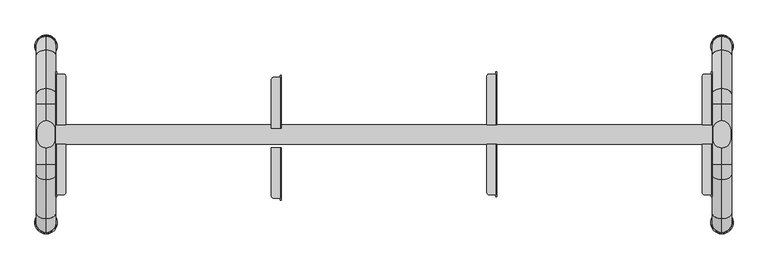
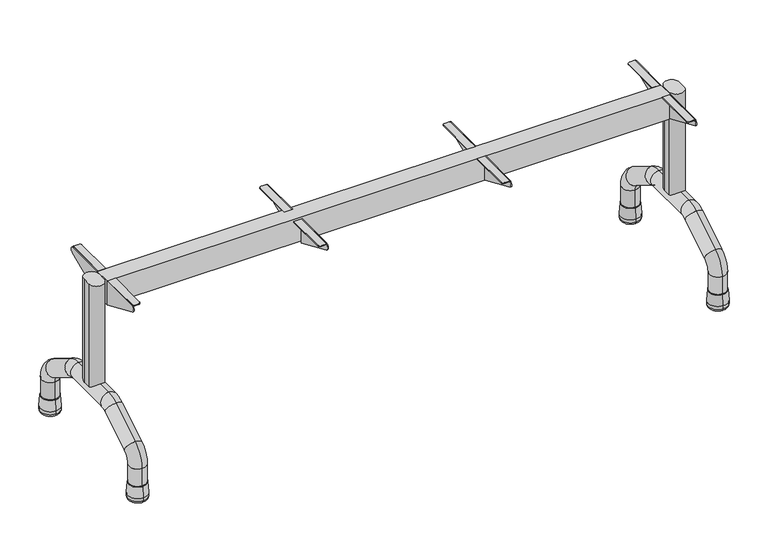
"""IFC4 building model written with IfcOpenShell, lengths in millimetres: furniture geometry, Banco para refeitório : Banco para refeitório 150x30cm cód 40470.6."""

from ifc_helpers import new_model, si_unit, point, frame, frame_2d, origin, place, context, project, spatial, polyline, circle_curve, ellipse_curve, trimmed, segment, composite_curve, outline, extrude, source, transform, mapped, element, save
from ifc_brep_helpers import plane_surface, cylinder_surface, revolved_surface, advanced_brep


def furniture_5cd1a622(model_context):
    return source(origin(), model_context, "Body", "SolidModel", [
        extrude(outline(composite_curve([segment(trimmed(circle_curve(frame_2d((-690.0, -9.5)), 18.0), [point((-672.0, -9.5))], [point((-708.0, -9.5))], False, "CARTESIAN"), True, "CONTINUOUS"), segment(polyline([(-708.0, -9.5), (-708.0, 9.5)]), True, "CONTINUOUS"), segment(trimmed(circle_curve(frame_2d((-690.0, 9.5)), 18.0), [point((-708.0, 9.5))], [point((-672.0, 9.5))], False, "CARTESIAN"), True, "CONTINUOUS"), segment(polyline([(-672.0, 9.5), (-672.0, -9.5)]), True, "CONTINUOUS")], self_intersect=False)), frame((0.0, 0.0, 175.0), z_axis=(0.0, 0.0, 1.0), x_axis=(1.0, 0.0, 0.0)), (0.0, 0.0, 1.0), 267.0),
        advanced_brep(
        [(-690.0, -160.0, 43.1183008), (-690.0, -200.0, 43.1183008), (-690.0, -160.0, 86.179057), (-690.0, -200.0, 86.179057), (-690.0, -171.6393713, 137.1589568), (-690.0, -150.5464571, 103.1723569), (-690.0, -71.882227, 151.9932999), (-690.0, -92.9751412, 185.9798998), (-690.0, -61.3357699, 195.0), (-690.0, -61.3357699, 155.0), (-690.0, 61.3357699, 155.0), (-690.0, 61.3357699, 195.0), (-690.0, 160.0, 43.1183008), (-690.0, 200.0, 43.1183008), (-690.0, 92.9751412, 185.9798998), (-690.0, 71.882227, 151.9932999), (-690.0, 150.5464571, 103.1723569), (-690.0, 171.6393713, 137.1589568), (-690.0, 200.0, 86.179057), (-690.0, 160.0, 86.179057)],
        [
            (0, 1, circle_curve(frame((-690.0, -180.0, 43.1183008), z_axis=(0.0, 0.0, -1.0), x_axis=(0.0, -1.0, 0.0)), 20.0)),
            (1, 0, circle_curve(frame((-690.0, -180.0, 43.1183008), z_axis=(0.0, 0.0, -1.0), x_axis=(0.0, -1.0, 0.0)), 20.0)),
            (0, 2),
            (2, 3, circle_curve(frame((-690.0, -180.0, 86.179057), z_axis=(0.0, 0.0, -1.0), x_axis=(0.0, -1.0, 0.0)), 20.0)),
            (3, 1),
            (3, 2, circle_curve(frame((-690.0, -180.0, 86.179057), z_axis=(0.0, 0.0, -1.0), x_axis=(0.0, -1.0, 0.0)), 20.0)),
            (4, 5, circle_curve(frame((-690.0, -161.0929142, 120.1656569), z_axis=(0.0, 0.8496649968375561, 0.5273228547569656), x_axis=(0.0, -0.5273228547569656, 0.8496649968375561)), 20.0)),
            (5, 6),
            (6, 7, circle_curve(frame((-690.0, -82.4286841, 168.9865999), z_axis=(0.0, -0.8496649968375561, -0.5273228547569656), x_axis=(0.0, -0.5273228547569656, 0.8496649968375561)), 20.0)),
            (7, 4),
            (5, 4, circle_curve(frame((-690.0, -161.0929142, 120.1656569), z_axis=(0.0, 0.8496649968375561, 0.5273228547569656), x_axis=(0.0, -0.5273228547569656, 0.8496649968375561)), 20.0)),
            (7, 6, circle_curve(frame((-690.0, -82.4286841, 168.9865999), z_axis=(0.0, -0.8496649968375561, -0.5273228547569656), x_axis=(0.0, -0.5273228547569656, 0.8496649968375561)), 20.0)),
            (8, 9, circle_curve(frame((-690.0, -61.3357699, 175.0), z_axis=(0.0, 1.0, 0.0), x_axis=(0.0, 0.0, 1.0)), 20.0)),
            (9, 10),
            (10, 11, circle_curve(frame((-690.0, 61.3357699, 175.0), z_axis=(0.0, -1.0, 0.0), x_axis=(0.0, 0.0, 1.0)), 20.0)),
            (11, 8),
            (9, 8, circle_curve(frame((-690.0, -61.3357699, 175.0), z_axis=(0.0, 1.0, 0.0), x_axis=(0.0, 0.0, 1.0)), 20.0)),
            (11, 10, circle_curve(frame((-690.0, 61.3357699, 175.0), z_axis=(0.0, -1.0, 0.0), x_axis=(0.0, 0.0, 1.0)), 20.0)),
            (12, 13, circle_curve(frame((-690.0, 180.0, 43.1183008), z_axis=(0.0, 0.0, -1.0), x_axis=(0.0, 1.0, 0.0)), 20.0)),
            (13, 12, circle_curve(frame((-690.0, 180.0, 43.1183008), z_axis=(0.0, 0.0, -1.0), x_axis=(0.0, 1.0, 0.0)), 20.0)),
            (4, 3, circle_curve(frame((-690.0, -140.0, 86.179057), z_axis=(1.0, 0.0, 0.0), x_axis=(0.0, -1.0, 0.0)), 60.0)),
            (2, 5, circle_curve(frame((-690.0, -140.0, 86.179057), z_axis=(-1.0, 0.0, 0.0), x_axis=(0.0, -1.0, 0.0)), 20.0)),
            (8, 7, circle_curve(frame((-690.0, -61.3357699, 135.0), z_axis=(1.0, 0.0, 0.0), x_axis=(0.0, -0.5273228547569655, 0.8496649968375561)), 60.0)),
            (6, 9, circle_curve(frame((-690.0, -61.3357699, 135.0), z_axis=(-1.0, 0.0, 0.0), x_axis=(0.0, -0.5273228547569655, 0.8496649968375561)), 20.0)),
            (14, 11, circle_curve(frame((-690.0, 61.3357699, 135.0), z_axis=(1.0, 0.0, 0.0), x_axis=(0.0, 0.0, 1.0)), 60.0)),
            (10, 15, circle_curve(frame((-690.0, 61.3357699, 135.0), z_axis=(-1.0, 0.0, 0.0), x_axis=(0.0, 0.0, 1.0)), 20.0)),
            (15, 14, circle_curve(frame((-690.0, 82.4286841, 168.9865999), z_axis=(0.0, -0.8496649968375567, 0.5273228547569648), x_axis=(0.0, 0.5273228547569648, 0.8496649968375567)), 20.0)),
            (14, 15, circle_curve(frame((-690.0, 82.4286841, 168.9865999), z_axis=(0.0, -0.8496649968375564, 0.5273228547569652), x_axis=(0.0, 0.5273228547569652, 0.8496649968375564)), 20.0)),
            (15, 16),
            (16, 17, circle_curve(frame((-690.0, 161.0929142, 120.1656569), z_axis=(0.0, -0.849664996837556, 0.5273228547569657), x_axis=(0.0, 0.5273228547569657, 0.849664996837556)), 20.0)),
            (17, 14),
            (17, 16, circle_curve(frame((-690.0, 161.0929142, 120.1656569), z_axis=(0.0, -0.849664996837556, 0.5273228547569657), x_axis=(0.0, 0.5273228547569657, 0.849664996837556)), 20.0)),
            (18, 17, circle_curve(frame((-690.0, 140.0, 86.179057), z_axis=(1.0, 0.0, 0.0), x_axis=(0.0, 0.5273228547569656, 0.849664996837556)), 60.0)),
            (16, 19, circle_curve(frame((-690.0, 140.0, 86.179057), z_axis=(-1.0, 0.0, 0.0), x_axis=(0.0, 0.5273228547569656, 0.849664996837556)), 20.0)),
            (19, 18, circle_curve(frame((-690.0, 180.0, 86.179057), z_axis=(0.0, 0.0, 1.0), x_axis=(0.0, 1.0, 0.0)), 20.0)),
            (18, 19, circle_curve(frame((-690.0, 180.0, 86.179057), z_axis=(0.0, 0.0, 1.0), x_axis=(0.0, 1.0, 0.0)), 20.0)),
            (19, 12),
            (13, 18),
        ],
        [
            plane_surface(frame((-1380.0, -180.0, 43.1183008), z_axis=(0.0, 0.0, -1.0), x_axis=(1.0, 0.0, 0.0))),
            cylinder_surface(frame((-690.0, -180.0, 43.1183008), z_axis=(0.0, 0.0, -1.0), x_axis=(0.0, -1.0, 0.0)), 20.0),
            cylinder_surface(frame((-690.0, -161.0929142, 120.1656569), z_axis=(0.0, -0.8496649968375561, -0.5273228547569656), x_axis=(0.0, -0.5273228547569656, 0.8496649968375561)), 20.0),
            cylinder_surface(frame((-690.0, -61.3357699, 175.0), z_axis=(0.0, -1.0, 0.0), x_axis=(0.0, 0.0, 1.0)), 20.0),
            plane_surface(frame((-1380.0, 180.0, 43.1183008), z_axis=(0.0, 0.0, -1.0), x_axis=(1.0, 0.0, 0.0))),
            revolved_surface(trimmed(ellipse_curve(frame((-690.0, -180.0, 86.179057), z_axis=(0.0, 0.0, -1.0), x_axis=(0.0, -1.0, 0.0)), 20.0, 20.0), [point((-690.0, -160.0, 86.179057))], [point((-690.0, -200.0, 86.179057))], True, "CARTESIAN"), (-1380.0, -140.0, 86.179057), (-1.0, 0.0, 0.0)),
            revolved_surface(trimmed(ellipse_curve(frame((-690.0, -180.0, 86.179057), z_axis=(0.0, 0.0, -1.0), x_axis=(0.0, -1.0, 0.0)), 20.0, 20.0), [point((-690.0, -200.0, 86.179057))], [point((-690.0, -160.0, 86.179057))], True, "CARTESIAN"), (-1380.0, -140.0, 86.179057), (-1.0, 0.0, 0.0)),
            revolved_surface(trimmed(ellipse_curve(frame((-690.0, -82.4286841, 168.9865999), z_axis=(0.0, -0.8496649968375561, -0.5273228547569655), x_axis=(0.0, -0.5273228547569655, 0.8496649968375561)), 20.0, 20.0), [point((-690.0, -71.882227, 151.9932999))], [point((-690.0, -92.9751412, 185.9798998))], True, "CARTESIAN"), (-1380.0, -61.3357699, 135.0), (-1.0, 0.0, 0.0)),
            revolved_surface(trimmed(ellipse_curve(frame((-690.0, -82.4286841, 168.9865999), z_axis=(0.0, -0.8496649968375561, -0.5273228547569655), x_axis=(0.0, -0.5273228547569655, 0.8496649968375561)), 20.0, 20.0), [point((-690.0, -92.9751412, 185.9798998))], [point((-690.0, -71.882227, 151.9932999))], True, "CARTESIAN"), (-1380.0, -61.3357699, 135.0), (-1.0, 0.0, 0.0)),
            revolved_surface(trimmed(ellipse_curve(frame((-690.0, 61.3357699, 175.0), z_axis=(0.0, -1.0, 0.0), x_axis=(0.0, 0.0, 1.0)), 20.0, 20.0), [point((-690.0, 61.3357699, 155.0))], [point((-690.0, 61.3357699, 195.0))], True, "CARTESIAN"), (-1380.0, 61.3357699, 135.0), (-1.0, 0.0, 0.0)),
            revolved_surface(trimmed(ellipse_curve(frame((-690.0, 61.3357699, 175.0), z_axis=(0.0, -1.0, 0.0), x_axis=(0.0, 0.0, 1.0)), 20.0, 20.0), [point((-690.0, 61.3357699, 195.0))], [point((-690.0, 61.3357699, 155.0))], True, "CARTESIAN"), (-1380.0, 61.3357699, 135.0), (-1.0, 0.0, 0.0)),
            cylinder_surface(frame((-690.0, 82.4286841, 168.9865999), z_axis=(0.0, -0.849664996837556, 0.5273228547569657), x_axis=(0.0, 0.5273228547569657, 0.849664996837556)), 20.0),
            revolved_surface(trimmed(ellipse_curve(frame((-690.0, 161.0929142, 120.1656569), z_axis=(0.0, -0.8496649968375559, 0.5273228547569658), x_axis=(0.0, 0.5273228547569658, 0.8496649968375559)), 20.0, 20.0), [point((-690.0, 150.5464571, 103.1723569))], [point((-690.0, 171.6393713, 137.1589568))], True, "CARTESIAN"), (-1380.0, 140.0, 86.179057), (-1.0, 0.0, 0.0)),
            revolved_surface(trimmed(ellipse_curve(frame((-690.0, 161.0929142, 120.1656569), z_axis=(0.0, -0.8496649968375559, 0.5273228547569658), x_axis=(0.0, 0.5273228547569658, 0.8496649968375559)), 20.0, 20.0), [point((-690.0, 171.6393713, 137.1589568))], [point((-690.0, 150.5464571, 103.1723569))], True, "CARTESIAN"), (-1380.0, 140.0, 86.179057), (-1.0, 0.0, 0.0)),
            cylinder_surface(frame((-690.0, 180.0, 86.179057), z_axis=(0.0, 0.0, 1.0), x_axis=(0.0, 1.0, 0.0)), 20.0),
        ],
        [
            (0, [[1, 2]]),
            (1, [[-1, 3, 4, 5]]),
            (1, [[-2, -5, 6, -3]]),
            (2, [[7, 8, 9, 10]]),
            (2, [[11, -10, 12, -8]]),
            (3, [[13, 14, 15, 16]]),
            (3, [[17, -16, 18, -14]]),
            (4, [[19, 20]]),
            (5, [[21, -4, 22, -7]]),
            (6, [[-22, -6, -21, -11]]),
            (7, [[23, -9, 24, -13]]),
            (8, [[-24, -12, -23, -17]]),
            (9, [[25, -15, 26, 27]]),
            (10, [[-26, -18, -25, 28]]),
            (11, [[-27, 29, 30, 31]]),
            (11, [[-28, -31, 32, -29]]),
            (12, [[33, -30, 34, 35]]),
            (13, [[-34, -32, -33, 36]]),
            (14, [[-35, 37, -20, 38]]),
            (14, [[-36, -38, -19, -37]]),
        ],
    ),
        extrude(outline(composite_curve([segment(trimmed(circle_curve(frame_2d((690.0, -9.5)), 18.0), [point((708.0, -9.5))], [point((672.0, -9.5))], False, "CARTESIAN"), True, "CONTINUOUS"), segment(polyline([(672.0, -9.5), (672.0, 9.5)]), True, "CONTINUOUS"), segment(trimmed(circle_curve(frame_2d((690.0, 9.5)), 18.0), [point((672.0, 9.5))], [point((708.0, 9.5))], False, "CARTESIAN"), True, "CONTINUOUS"), segment(polyline([(708.0, 9.5), (708.0, -9.5)]), True, "CONTINUOUS")], self_intersect=False)), frame((0.0, 0.0, 175.0), z_axis=(0.0, 0.0, 1.0), x_axis=(1.0, 0.0, 0.0)), (0.0, 0.0, 1.0), 267.0),
        advanced_brep(
        [(690.0, -160.0, 43.1183008), (690.0, -200.0, 43.1183008), (690.0, -160.0, 86.179057), (690.0, -200.0, 86.179057), (690.0, -171.6393713, 137.1589568), (690.0, -150.5464571, 103.1723569), (690.0, -71.882227, 151.9932999), (690.0, -92.9751412, 185.9798998), (690.0, -61.3357699, 195.0), (690.0, -61.3357699, 155.0), (690.0, 61.3357699, 155.0), (690.0, 61.3357699, 195.0), (690.0, 160.0, 43.1183008), (690.0, 200.0, 43.1183008), (690.0, 92.9751412, 185.9798998), (690.0, 71.882227, 151.9932999), (690.0, 150.5464571, 103.1723569), (690.0, 171.6393713, 137.1589568), (690.0, 200.0, 86.179057), (690.0, 160.0, 86.179057)],
        [
            (0, 1, circle_curve(frame((690.0, -180.0, 43.1183008), z_axis=(0.0, 0.0, -1.0), x_axis=(0.0, -1.0, 0.0)), 20.0)),
            (1, 0, circle_curve(frame((690.0, -180.0, 43.1183008), z_axis=(0.0, 0.0, -1.0), x_axis=(0.0, -1.0, 0.0)), 20.0)),
            (0, 2),
            (2, 3, circle_curve(frame((690.0, -180.0, 86.179057), z_axis=(0.0, 0.0, -1.0), x_axis=(0.0, -1.0, 0.0)), 20.0)),
            (3, 1),
            (3, 2, circle_curve(frame((690.0, -180.0, 86.179057), z_axis=(0.0, 0.0, -1.0), x_axis=(0.0, -1.0, 0.0)), 20.0)),
            (4, 5, circle_curve(frame((690.0, -161.0929142, 120.1656569), z_axis=(0.0, 0.8496649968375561, 0.5273228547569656), x_axis=(0.0, -0.5273228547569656, 0.8496649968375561)), 20.0)),
            (5, 6),
            (6, 7, circle_curve(frame((690.0, -82.4286841, 168.9865999), z_axis=(0.0, -0.8496649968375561, -0.5273228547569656), x_axis=(0.0, -0.5273228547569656, 0.8496649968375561)), 20.0)),
            (7, 4),
            (5, 4, circle_curve(frame((690.0, -161.0929142, 120.1656569), z_axis=(0.0, 0.8496649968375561, 0.5273228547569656), x_axis=(0.0, -0.5273228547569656, 0.8496649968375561)), 20.0)),
            (7, 6, circle_curve(frame((690.0, -82.4286841, 168.9865999), z_axis=(0.0, -0.8496649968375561, -0.5273228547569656), x_axis=(0.0, -0.5273228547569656, 0.8496649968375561)), 20.0)),
            (8, 9, circle_curve(frame((690.0, -61.3357699, 175.0), z_axis=(0.0, 1.0, 0.0), x_axis=(0.0, 0.0, 1.0)), 20.0)),
            (9, 10),
            (10, 11, circle_curve(frame((690.0, 61.3357699, 175.0), z_axis=(0.0, -1.0, 0.0), x_axis=(0.0, 0.0, 1.0)), 20.0)),
            (11, 8),
            (9, 8, circle_curve(frame((690.0, -61.3357699, 175.0), z_axis=(0.0, 1.0, 0.0), x_axis=(0.0, 0.0, 1.0)), 20.0)),
            (11, 10, circle_curve(frame((690.0, 61.3357699, 175.0), z_axis=(0.0, -1.0, 0.0), x_axis=(0.0, 0.0, 1.0)), 20.0)),
            (12, 13, circle_curve(frame((690.0, 180.0, 43.1183008), z_axis=(0.0, 0.0, -1.0), x_axis=(0.0, 1.0, 0.0)), 20.0)),
            (13, 12, circle_curve(frame((690.0, 180.0, 43.1183008), z_axis=(0.0, 0.0, -1.0), x_axis=(0.0, 1.0, 0.0)), 20.0)),
            (4, 3, circle_curve(frame((690.0, -140.0, 86.179057), z_axis=(1.0, 0.0, 0.0), x_axis=(0.0, -1.0, 0.0)), 60.0)),
            (2, 5, circle_curve(frame((690.0, -140.0, 86.179057), z_axis=(-1.0, 0.0, 0.0), x_axis=(0.0, -1.0, 0.0)), 20.0)),
            (8, 7, circle_curve(frame((690.0, -61.3357699, 135.0), z_axis=(1.0, 0.0, 0.0), x_axis=(0.0, -0.5273228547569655, 0.8496649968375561)), 60.0)),
            (6, 9, circle_curve(frame((690.0, -61.3357699, 135.0), z_axis=(-1.0, 0.0, 0.0), x_axis=(0.0, -0.5273228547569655, 0.8496649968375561)), 20.0)),
            (14, 11, circle_curve(frame((690.0, 61.3357699, 135.0), z_axis=(1.0, 0.0, 0.0), x_axis=(0.0, 0.0, 1.0)), 60.0)),
            (10, 15, circle_curve(frame((690.0, 61.3357699, 135.0), z_axis=(-1.0, 0.0, 0.0), x_axis=(0.0, 0.0, 1.0)), 20.0)),
            (15, 14, circle_curve(frame((690.0, 82.4286841, 168.9865999), z_axis=(0.0, -0.8496649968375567, 0.5273228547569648), x_axis=(0.0, 0.5273228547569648, 0.8496649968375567)), 20.0)),
            (14, 15, circle_curve(frame((690.0, 82.4286841, 168.9865999), z_axis=(0.0, -0.8496649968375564, 0.5273228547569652), x_axis=(0.0, 0.5273228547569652, 0.8496649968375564)), 20.0)),
            (15, 16),
            (16, 17, circle_curve(frame((690.0, 161.0929142, 120.1656569), z_axis=(0.0, -0.849664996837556, 0.5273228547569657), x_axis=(0.0, 0.5273228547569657, 0.849664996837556)), 20.0)),
            (17, 14),
            (17, 16, circle_curve(frame((690.0, 161.0929142, 120.1656569), z_axis=(0.0, -0.849664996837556, 0.5273228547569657), x_axis=(0.0, 0.5273228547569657, 0.849664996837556)), 20.0)),
            (18, 17, circle_curve(frame((690.0, 140.0, 86.179057), z_axis=(1.0, 0.0, 0.0), x_axis=(0.0, 0.5273228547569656, 0.849664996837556)), 60.0)),
            (16, 19, circle_curve(frame((690.0, 140.0, 86.179057), z_axis=(-1.0, 0.0, 0.0), x_axis=(0.0, 0.5273228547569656, 0.849664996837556)), 20.0)),
            (19, 18, circle_curve(frame((690.0, 180.0, 86.179057), z_axis=(0.0, 0.0, 1.0), x_axis=(0.0, 1.0, 0.0)), 20.0)),
            (18, 19, circle_curve(frame((690.0, 180.0, 86.179057), z_axis=(0.0, 0.0, 1.0), x_axis=(0.0, 1.0, 0.0)), 20.0)),
            (19, 12),
            (13, 18),
        ],
        [
            plane_surface(frame((0.0, -180.0, 43.1183008), z_axis=(0.0, 0.0, -1.0), x_axis=(1.0, 0.0, 0.0))),
            cylinder_surface(frame((690.0, -180.0, 43.1183008), z_axis=(0.0, 0.0, -1.0), x_axis=(0.0, -1.0, 0.0)), 20.0),
            cylinder_surface(frame((690.0, -161.0929142, 120.1656569), z_axis=(0.0, -0.8496649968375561, -0.5273228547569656), x_axis=(0.0, -0.5273228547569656, 0.8496649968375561)), 20.0),
            cylinder_surface(frame((690.0, -61.3357699, 175.0), z_axis=(0.0, -1.0, 0.0), x_axis=(0.0, 0.0, 1.0)), 20.0),
            plane_surface(frame((0.0, 180.0, 43.1183008), z_axis=(0.0, 0.0, -1.0), x_axis=(1.0, 0.0, 0.0))),
            revolved_surface(trimmed(ellipse_curve(frame((690.0, -180.0, 86.179057), z_axis=(0.0, 0.0, -1.0), x_axis=(0.0, -1.0, 0.0)), 20.0, 20.0), [point((690.0, -160.0, 86.179057))], [point((690.0, -200.0, 86.179057))], True, "CARTESIAN"), (0.0, -140.0, 86.179057), (-1.0, 0.0, 0.0)),
            revolved_surface(trimmed(ellipse_curve(frame((690.0, -180.0, 86.179057), z_axis=(0.0, 0.0, -1.0), x_axis=(0.0, -1.0, 0.0)), 20.0, 20.0), [point((690.0, -200.0, 86.179057))], [point((690.0, -160.0, 86.179057))], True, "CARTESIAN"), (0.0, -140.0, 86.179057), (-1.0, 0.0, 0.0)),
            revolved_surface(trimmed(ellipse_curve(frame((690.0, -82.4286841, 168.9865999), z_axis=(0.0, -0.8496649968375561, -0.5273228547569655), x_axis=(0.0, -0.5273228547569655, 0.8496649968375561)), 20.0, 20.0), [point((690.0, -71.882227, 151.9932999))], [point((690.0, -92.9751412, 185.9798998))], True, "CARTESIAN"), (0.0, -61.3357699, 135.0), (-1.0, 0.0, 0.0)),
            revolved_surface(trimmed(ellipse_curve(frame((690.0, -82.4286841, 168.9865999), z_axis=(0.0, -0.8496649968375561, -0.5273228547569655), x_axis=(0.0, -0.5273228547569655, 0.8496649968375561)), 20.0, 20.0), [point((690.0, -92.9751412, 185.9798998))], [point((690.0, -71.882227, 151.9932999))], True, "CARTESIAN"), (0.0, -61.3357699, 135.0), (-1.0, 0.0, 0.0)),
            revolved_surface(trimmed(ellipse_curve(frame((690.0, 61.3357699, 175.0), z_axis=(0.0, -1.0, 0.0), x_axis=(0.0, 0.0, 1.0)), 20.0, 20.0), [point((690.0, 61.3357699, 155.0))], [point((690.0, 61.3357699, 195.0))], True, "CARTESIAN"), (0.0, 61.3357699, 135.0), (-1.0, 0.0, 0.0)),
            revolved_surface(trimmed(ellipse_curve(frame((690.0, 61.3357699, 175.0), z_axis=(0.0, -1.0, 0.0), x_axis=(0.0, 0.0, 1.0)), 20.0, 20.0), [point((690.0, 61.3357699, 195.0))], [point((690.0, 61.3357699, 155.0))], True, "CARTESIAN"), (0.0, 61.3357699, 135.0), (-1.0, 0.0, 0.0)),
            cylinder_surface(frame((690.0, 82.4286841, 168.9865999), z_axis=(0.0, -0.849664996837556, 0.5273228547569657), x_axis=(0.0, 0.5273228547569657, 0.849664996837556)), 20.0),
            revolved_surface(trimmed(ellipse_curve(frame((690.0, 161.0929142, 120.1656569), z_axis=(0.0, -0.8496649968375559, 0.5273228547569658), x_axis=(0.0, 0.5273228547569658, 0.8496649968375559)), 20.0, 20.0), [point((690.0, 150.5464571, 103.1723569))], [point((690.0, 171.6393713, 137.1589568))], True, "CARTESIAN"), (0.0, 140.0, 86.179057), (-1.0, 0.0, 0.0)),
            revolved_surface(trimmed(ellipse_curve(frame((690.0, 161.0929142, 120.1656569), z_axis=(0.0, -0.8496649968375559, 0.5273228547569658), x_axis=(0.0, 0.5273228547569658, 0.8496649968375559)), 20.0, 20.0), [point((690.0, 171.6393713, 137.1589568))], [point((690.0, 150.5464571, 103.1723569))], True, "CARTESIAN"), (0.0, 140.0, 86.179057), (-1.0, 0.0, 0.0)),
            cylinder_surface(frame((690.0, 180.0, 86.179057), z_axis=(0.0, 0.0, 1.0), x_axis=(0.0, 1.0, 0.0)), 20.0),
        ],
        [
            (0, [[1, 2]]),
            (1, [[-1, 3, 4, 5]]),
            (1, [[-2, -5, 6, -3]]),
            (2, [[7, 8, 9, 10]]),
            (2, [[11, -10, 12, -8]]),
            (3, [[13, 14, 15, 16]]),
            (3, [[17, -16, 18, -14]]),
            (4, [[19, 20]]),
            (5, [[21, -4, 22, -7]]),
            (6, [[-22, -6, -21, -11]]),
            (7, [[23, -9, 24, -13]]),
            (8, [[-24, -12, -23, -17]]),
            (9, [[25, -15, 26, 27]]),
            (10, [[-26, -18, -25, 28]]),
            (11, [[-27, 29, 30, 31]]),
            (11, [[-28, -31, 32, -29]]),
            (12, [[33, -30, 34, 35]]),
            (13, [[-34, -32, -33, 36]]),
            (14, [[-35, 37, -20, 38]]),
            (14, [[-36, -38, -19, -37]]),
        ],
    ),
        advanced_brep(
        [(-690.0, 200.5839249, 42.9792915), (-690.0, 201.212521, 42.3931162), (-690.0, 158.787479, 42.3931162), (-690.0, 159.4160751, 42.9792915), (-690.0, 203.125, 15.0433923), (-690.0, 156.875, 15.0433923), (-690.0, 203.125, 7.2213749), (-690.0, 156.875, 7.2213749), (-690.0, 196.0093092, 0.1056841), (-690.0, 163.9906908, 0.1056841), (-690.0, 180.0, 0.1056841), (-690.0, 180.0, 42.9792915)],
        [
            (0, 1, circle_curve(frame((-690.0, 200.5839249, 42.3491605), z_axis=(-1.0, 0.0, 0.0), x_axis=(0.0, -1.0, 0.0)), 0.630131)),
            (1, 2, circle_curve(frame((-690.0, 180.0, 42.3931162), z_axis=(0.0, 0.0, 1.0), x_axis=(0.0, -1.0, 0.0)), 21.212521)),
            (2, 3, circle_curve(frame((-690.0, 159.4160751, 42.3491605), z_axis=(-1.0, 0.0, 0.0), x_axis=(0.0, 1.0, 0.0)), 0.630131)),
            (3, 0, circle_curve(frame((-690.0, 180.0, 42.9792915), z_axis=(0.0, 0.0, -1.0), x_axis=(0.0, -1.0, 0.0)), 20.5839249)),
            (2, 1, circle_curve(frame((-690.0, 180.0, 42.3931162), z_axis=(0.0, 0.0, 1.0), x_axis=(0.0, -1.0, 0.0)), 21.212521)),
            (0, 3, circle_curve(frame((-690.0, 180.0, 42.9792915), z_axis=(0.0, 0.0, -1.0), x_axis=(0.0, -1.0, 0.0)), 20.5839249)),
            (1, 4),
            (4, 5, circle_curve(frame((-690.0, 180.0, 15.0433923), z_axis=(0.0, 0.0, 1.0), x_axis=(0.0, -1.0, 0.0)), 23.125)),
            (5, 2),
            (5, 4, circle_curve(frame((-690.0, 180.0, 15.0433923), z_axis=(0.0, 0.0, 1.0), x_axis=(0.0, -1.0, 0.0)), 23.125)),
            (4, 6),
            (6, 7, circle_curve(frame((-690.0, 180.0, 7.2213749), z_axis=(0.0, 0.0, 1.0), x_axis=(0.0, -1.0, 0.0)), 23.125)),
            (7, 5),
            (7, 6, circle_curve(frame((-690.0, 180.0, 7.2213749), z_axis=(0.0, 0.0, 1.0), x_axis=(0.0, -1.0, 0.0)), 23.125)),
            (6, 8, circle_curve(frame((-690.0, 196.0093092, 7.2213749), z_axis=(-1.0, 0.0, 0.0), x_axis=(0.0, -1.0, 0.0)), 7.1156908)),
            (8, 9, circle_curve(frame((-690.0, 180.0, 0.1056841), z_axis=(0.0, 0.0, 1.0), x_axis=(0.0, -1.0, 0.0)), 16.0093092)),
            (9, 7, circle_curve(frame((-690.0, 163.9906908, 7.2213749), z_axis=(-1.0, 0.0, 0.0), x_axis=(0.0, 1.0, 0.0)), 7.1156908)),
            (9, 8, circle_curve(frame((-690.0, 180.0, 0.1056841), z_axis=(0.0, 0.0, 1.0), x_axis=(0.0, -1.0, 0.0)), 16.0093092)),
            (8, 10),
            (10, 9),
            (11, 0),
            (3, 11),
        ],
        [
            revolved_surface(trimmed(ellipse_curve(frame((-690.0, 159.4160751, 42.3491605), z_axis=(-1.0, 0.0, 0.0), x_axis=(0.0, 1.0, 0.0)), 0.630131, 0.630131), [point((-690.0, 158.787479, 42.3931162))], [point((-690.0, 159.4160751, 42.9792915))], True, "CARTESIAN"), (-690.0, 180.0, 0.1056841), (0.0, 0.0, 1.0)),
            revolved_surface(polyline([(-690.0, 156.875, 15.0433923), (-690.0, 158.787479, 42.3931162)]), (-690.0, 180.0, 0.1056841), (0.0, 0.0, 1.0)),
            cylinder_surface(frame((-690.0, 180.0, 0.1056841), z_axis=(0.0, 0.0, 1.0), x_axis=(0.0, -1.0, 0.0)), 23.125),
            revolved_surface(trimmed(ellipse_curve(frame((-690.0, 163.9906908, 7.2213749), z_axis=(-1.0, 0.0, 0.0), x_axis=(0.0, 1.0, 0.0)), 7.1156908, 7.1156908), [point((-690.0, 163.9906908, 0.1056841))], [point((-690.0, 156.875, 7.2213749))], True, "CARTESIAN"), (-690.0, 180.0, 0.1056841), (0.0, 0.0, 1.0)),
            plane_surface(frame((-690.0, 180.0, 0.1056841), z_axis=(0.0, 0.0, -1.0), x_axis=(0.0, -1.0, 0.0))),
            plane_surface(frame((-690.0, 180.0, 42.9792915), z_axis=(0.0, 0.0, 1.0), x_axis=(0.0, -1.0, 0.0))),
        ],
        [
            (0, [[1, 2, 3, 4]]),
            (0, [[-3, 5, -1, 6]]),
            (1, [[7, 8, 9, -2]]),
            (1, [[-9, 10, -7, -5]]),
            (2, [[11, 12, 13, -8]]),
            (2, [[-13, 14, -11, -10]]),
            (3, [[15, 16, 17, -12]]),
            (3, [[-17, 18, -15, -14]]),
            (4, [[19, 20, -16]]),
            (4, [[-20, -19, -18]]),
            (5, [[21, -4, 22]]),
            (5, [[-22, -6, -21]]),
        ],
    ),
        advanced_brep(
        [(-690.0, -159.4160751, 42.9792915), (-690.0, -158.787479, 42.3931162), (-690.0, -201.212521, 42.3931162), (-690.0, -200.5839249, 42.9792915), (-690.0, -156.875, 15.0433923), (-690.0, -203.125, 15.0433923), (-690.0, -156.875, 7.2213749), (-690.0, -203.125, 7.2213749), (-690.0, -163.9906908, 0.1056841), (-690.0, -196.0093092, 0.1056841), (-690.0, -180.0, 0.1056841), (-690.0, -180.0, 42.9792915)],
        [
            (0, 1, circle_curve(frame((-690.0, -159.4160751, 42.3491605), z_axis=(-1.0, 0.0, 0.0), x_axis=(0.0, -1.0, 0.0)), 0.630131)),
            (1, 2, circle_curve(frame((-690.0, -180.0, 42.3931162), z_axis=(0.0, 0.0, 1.0), x_axis=(0.0, -1.0, 0.0)), 21.212521)),
            (2, 3, circle_curve(frame((-690.0, -200.5839249, 42.3491605), z_axis=(-1.0, 0.0, 0.0), x_axis=(0.0, 1.0, 0.0)), 0.630131)),
            (3, 0, circle_curve(frame((-690.0, -180.0, 42.9792915), z_axis=(0.0, 0.0, -1.0), x_axis=(0.0, -1.0, 0.0)), 20.5839249)),
            (2, 1, circle_curve(frame((-690.0, -180.0, 42.3931162), z_axis=(0.0, 0.0, 1.0), x_axis=(0.0, -1.0, 0.0)), 21.212521)),
            (0, 3, circle_curve(frame((-690.0, -180.0, 42.9792915), z_axis=(0.0, 0.0, -1.0), x_axis=(0.0, -1.0, 0.0)), 20.5839249)),
            (1, 4),
            (4, 5, circle_curve(frame((-690.0, -180.0, 15.0433923), z_axis=(0.0, 0.0, 1.0), x_axis=(0.0, -1.0, 0.0)), 23.125)),
            (5, 2),
            (5, 4, circle_curve(frame((-690.0, -180.0, 15.0433923), z_axis=(0.0, 0.0, 1.0), x_axis=(0.0, -1.0, 0.0)), 23.125)),
            (4, 6),
            (6, 7, circle_curve(frame((-690.0, -180.0, 7.2213749), z_axis=(0.0, 0.0, 1.0), x_axis=(0.0, -1.0, 0.0)), 23.125)),
            (7, 5),
            (7, 6, circle_curve(frame((-690.0, -180.0, 7.2213749), z_axis=(0.0, 0.0, 1.0), x_axis=(0.0, -1.0, 0.0)), 23.125)),
            (6, 8, circle_curve(frame((-690.0, -163.9906908, 7.2213749), z_axis=(-1.0, 0.0, 0.0), x_axis=(0.0, -1.0, 0.0)), 7.1156908)),
            (8, 9, circle_curve(frame((-690.0, -180.0, 0.1056841), z_axis=(0.0, 0.0, 1.0), x_axis=(0.0, -1.0, 0.0)), 16.0093092)),
            (9, 7, circle_curve(frame((-690.0, -196.0093092, 7.2213749), z_axis=(-1.0, 0.0, 0.0), x_axis=(0.0, 1.0, 0.0)), 7.1156908)),
            (9, 8, circle_curve(frame((-690.0, -180.0, 0.1056841), z_axis=(0.0, 0.0, 1.0), x_axis=(0.0, -1.0, 0.0)), 16.0093092)),
            (8, 10),
            (10, 9),
            (11, 0),
            (3, 11),
        ],
        [
            revolved_surface(trimmed(ellipse_curve(frame((-690.0, -200.5839249, 42.3491605), z_axis=(-1.0, 0.0, 0.0), x_axis=(0.0, 1.0, 0.0)), 0.630131, 0.630131), [point((-690.0, -201.212521, 42.3931162))], [point((-690.0, -200.5839249, 42.9792915))], True, "CARTESIAN"), (-690.0, -180.0, 0.1056841), (0.0, 0.0, 1.0)),
            revolved_surface(polyline([(-690.0, -203.125, 15.0433923), (-690.0, -201.212521, 42.3931162)]), (-690.0, -180.0, 0.1056841), (0.0, 0.0, 1.0)),
            cylinder_surface(frame((-690.0, -180.0, 0.1056841), z_axis=(0.0, 0.0, 1.0), x_axis=(0.0, -1.0, 0.0)), 23.125),
            revolved_surface(trimmed(ellipse_curve(frame((-690.0, -196.0093092, 7.2213749), z_axis=(-1.0, 0.0, 0.0), x_axis=(0.0, 1.0, 0.0)), 7.1156908, 7.1156908), [point((-690.0, -196.0093092, 0.1056841))], [point((-690.0, -203.125, 7.2213749))], True, "CARTESIAN"), (-690.0, -180.0, 0.1056841), (0.0, 0.0, 1.0)),
            plane_surface(frame((-690.0, -180.0, 0.1056841), z_axis=(0.0, 0.0, -1.0), x_axis=(0.0, -1.0, 0.0))),
            plane_surface(frame((-690.0, -180.0, 42.9792915), z_axis=(0.0, 0.0, 1.0), x_axis=(0.0, -1.0, 0.0))),
        ],
        [
            (0, [[1, 2, 3, 4]]),
            (0, [[-3, 5, -1, 6]]),
            (1, [[7, 8, 9, -2]]),
            (1, [[-9, 10, -7, -5]]),
            (2, [[11, 12, 13, -8]]),
            (2, [[-13, 14, -11, -10]]),
            (3, [[15, 16, 17, -12]]),
            (3, [[-17, 18, -15, -14]]),
            (4, [[19, 20, -16]]),
            (4, [[-20, -19, -18]]),
            (5, [[21, -4, 22]]),
            (5, [[-22, -6, -21]]),
        ],
    ),
        advanced_brep(
        [(690.0, 200.5839249, 42.9792915), (690.0, 159.4160751, 42.9792915), (690.0, 158.787479, 42.3931162), (690.0, 201.212521, 42.3931162), (690.0, 156.875, 15.0433923), (690.0, 203.125, 15.0433923), (690.0, 156.875, 7.2213749), (690.0, 203.125, 7.2213749), (690.0, 163.9906908, 0.1056841), (690.0, 196.0093092, 0.1056841), (690.0, 180.0, 0.1056841), (690.0, 180.0, 42.9792915)],
        [
            (0, 1, circle_curve(frame((690.0, 180.0, 42.9792915), z_axis=(0.0, 0.0, -1.0), x_axis=(0.0, -1.0, 0.0)), 20.5839249)),
            (1, 2, circle_curve(frame((690.0, 159.4160751, 42.3491605), z_axis=(1.0, 0.0, 0.0), x_axis=(0.0, 1.0, 0.0)), 0.630131)),
            (2, 3, circle_curve(frame((690.0, 180.0, 42.3931162), z_axis=(0.0, 0.0, 1.0), x_axis=(0.0, -1.0, 0.0)), 21.212521)),
            (3, 0, circle_curve(frame((690.0, 200.5839249, 42.3491605), z_axis=(1.0, 0.0, 0.0), x_axis=(0.0, -1.0, 0.0)), 0.630131)),
            (1, 0, circle_curve(frame((690.0, 180.0, 42.9792915), z_axis=(0.0, 0.0, -1.0), x_axis=(0.0, -1.0, 0.0)), 20.5839249)),
            (3, 2, circle_curve(frame((690.0, 180.0, 42.3931162), z_axis=(0.0, 0.0, 1.0), x_axis=(0.0, -1.0, 0.0)), 21.212521)),
            (2, 4),
            (4, 5, circle_curve(frame((690.0, 180.0, 15.0433923), z_axis=(0.0, 0.0, 1.0), x_axis=(0.0, -1.0, 0.0)), 23.125)),
            (5, 3),
            (5, 4, circle_curve(frame((690.0, 180.0, 15.0433923), z_axis=(0.0, 0.0, 1.0), x_axis=(0.0, -1.0, 0.0)), 23.125)),
            (4, 6),
            (6, 7, circle_curve(frame((690.0, 180.0, 7.2213749), z_axis=(0.0, 0.0, 1.0), x_axis=(0.0, -1.0, 0.0)), 23.125)),
            (7, 5),
            (7, 6, circle_curve(frame((690.0, 180.0, 7.2213749), z_axis=(0.0, 0.0, 1.0), x_axis=(0.0, -1.0, 0.0)), 23.125)),
            (6, 8, circle_curve(frame((690.0, 163.9906908, 7.2213749), z_axis=(1.0, 0.0, 0.0), x_axis=(0.0, 1.0, 0.0)), 7.1156908)),
            (8, 9, circle_curve(frame((690.0, 180.0, 0.1056841), z_axis=(0.0, 0.0, 1.0), x_axis=(0.0, -1.0, 0.0)), 16.0093092)),
            (9, 7, circle_curve(frame((690.0, 196.0093092, 7.2213749), z_axis=(1.0, 0.0, 0.0), x_axis=(0.0, -1.0, 0.0)), 7.1156908)),
            (9, 8, circle_curve(frame((690.0, 180.0, 0.1056841), z_axis=(0.0, 0.0, 1.0), x_axis=(0.0, -1.0, 0.0)), 16.0093092)),
            (8, 10),
            (10, 9),
            (11, 1),
            (0, 11),
        ],
        [
            revolved_surface(trimmed(ellipse_curve(frame((690.0, 159.4160751, 42.3491605), z_axis=(-1.0, 0.0, 0.0), x_axis=(0.0, 1.0, 0.0)), 0.630131, 0.630131), [point((690.0, 158.787479, 42.3931162))], [point((690.0, 159.4160751, 42.9792915))], True, "CARTESIAN"), (690.0, 180.0, 0.1056841), (0.0, 0.0, 1.0)),
            revolved_surface(polyline([(690.0, 156.875, 15.0433923), (690.0, 158.787479, 42.3931162)]), (690.0, 180.0, 0.1056841), (0.0, 0.0, 1.0)),
            cylinder_surface(frame((690.0, 180.0, 0.1056841), z_axis=(0.0, 0.0, 1.0), x_axis=(0.0, -1.0, 0.0)), 23.125),
            revolved_surface(trimmed(ellipse_curve(frame((690.0, 163.9906908, 7.2213749), z_axis=(-1.0, 0.0, 0.0), x_axis=(0.0, 1.0, 0.0)), 7.1156908, 7.1156908), [point((690.0, 163.9906908, 0.1056841))], [point((690.0, 156.875, 7.2213749))], True, "CARTESIAN"), (690.0, 180.0, 0.1056841), (0.0, 0.0, 1.0)),
            plane_surface(frame((690.0, 180.0, 0.1056841), z_axis=(0.0, 0.0, -1.0), x_axis=(0.0, -1.0, 0.0))),
            plane_surface(frame((690.0, 180.0, 42.9792915), z_axis=(0.0, 0.0, 1.0), x_axis=(0.0, -1.0, 0.0))),
        ],
        [
            (0, [[1, 2, 3, 4]]),
            (0, [[5, -4, 6, -2]]),
            (1, [[-3, 7, 8, 9]]),
            (1, [[-6, -9, 10, -7]]),
            (2, [[-8, 11, 12, 13]]),
            (2, [[-10, -13, 14, -11]]),
            (3, [[-12, 15, 16, 17]]),
            (3, [[-14, -17, 18, -15]]),
            (4, [[-16, 19, 20]]),
            (4, [[-18, -20, -19]]),
            (5, [[21, -1, 22]]),
            (5, [[-22, -5, -21]]),
        ],
    ),
        advanced_brep(
        [(690.0, -159.4160751, 42.9792915), (690.0, -200.5839249, 42.9792915), (690.0, -201.212521, 42.3931162), (690.0, -158.787479, 42.3931162), (690.0, -203.125, 15.0433923), (690.0, -156.875, 15.0433923), (690.0, -203.125, 7.2213749), (690.0, -156.875, 7.2213749), (690.0, -196.0093092, 0.1056841), (690.0, -163.9906908, 0.1056841), (690.0, -180.0, 0.1056841), (690.0, -180.0, 42.9792915)],
        [
            (0, 1, circle_curve(frame((690.0, -180.0, 42.9792915), z_axis=(0.0, 0.0, -1.0), x_axis=(0.0, -1.0, 0.0)), 20.5839249)),
            (1, 2, circle_curve(frame((690.0, -200.5839249, 42.3491605), z_axis=(1.0, 0.0, 0.0), x_axis=(0.0, 1.0, 0.0)), 0.630131)),
            (2, 3, circle_curve(frame((690.0, -180.0, 42.3931162), z_axis=(0.0, 0.0, 1.0), x_axis=(0.0, -1.0, 0.0)), 21.212521)),
            (3, 0, circle_curve(frame((690.0, -159.4160751, 42.3491605), z_axis=(1.0, 0.0, 0.0), x_axis=(0.0, -1.0, 0.0)), 0.630131)),
            (1, 0, circle_curve(frame((690.0, -180.0, 42.9792915), z_axis=(0.0, 0.0, -1.0), x_axis=(0.0, -1.0, 0.0)), 20.5839249)),
            (3, 2, circle_curve(frame((690.0, -180.0, 42.3931162), z_axis=(0.0, 0.0, 1.0), x_axis=(0.0, -1.0, 0.0)), 21.212521)),
            (2, 4),
            (4, 5, circle_curve(frame((690.0, -180.0, 15.0433923), z_axis=(0.0, 0.0, 1.0), x_axis=(0.0, -1.0, 0.0)), 23.125)),
            (5, 3),
            (5, 4, circle_curve(frame((690.0, -180.0, 15.0433923), z_axis=(0.0, 0.0, 1.0), x_axis=(0.0, -1.0, 0.0)), 23.125)),
            (4, 6),
            (6, 7, circle_curve(frame((690.0, -180.0, 7.2213749), z_axis=(0.0, 0.0, 1.0), x_axis=(0.0, -1.0, 0.0)), 23.125)),
            (7, 5),
            (7, 6, circle_curve(frame((690.0, -180.0, 7.2213749), z_axis=(0.0, 0.0, 1.0), x_axis=(0.0, -1.0, 0.0)), 23.125)),
            (6, 8, circle_curve(frame((690.0, -196.0093092, 7.2213749), z_axis=(1.0, 0.0, 0.0), x_axis=(0.0, 1.0, 0.0)), 7.1156908)),
            (8, 9, circle_curve(frame((690.0, -180.0, 0.1056841), z_axis=(0.0, 0.0, 1.0), x_axis=(0.0, -1.0, 0.0)), 16.0093092)),
            (9, 7, circle_curve(frame((690.0, -163.9906908, 7.2213749), z_axis=(1.0, 0.0, 0.0), x_axis=(0.0, -1.0, 0.0)), 7.1156908)),
            (9, 8, circle_curve(frame((690.0, -180.0, 0.1056841), z_axis=(0.0, 0.0, 1.0), x_axis=(0.0, -1.0, 0.0)), 16.0093092)),
            (8, 10),
            (10, 9),
            (11, 1),
            (0, 11),
        ],
        [
            revolved_surface(trimmed(ellipse_curve(frame((690.0, -200.5839249, 42.3491605), z_axis=(-1.0, 0.0, 0.0), x_axis=(0.0, 1.0, 0.0)), 0.630131, 0.630131), [point((690.0, -201.212521, 42.3931162))], [point((690.0, -200.5839249, 42.9792915))], True, "CARTESIAN"), (690.0, -180.0, 0.1056841), (0.0, 0.0, 1.0)),
            revolved_surface(polyline([(690.0, -203.125, 15.0433923), (690.0, -201.212521, 42.3931162)]), (690.0, -180.0, 0.1056841), (0.0, 0.0, 1.0)),
            cylinder_surface(frame((690.0, -180.0, 0.1056841), z_axis=(0.0, 0.0, 1.0), x_axis=(0.0, -1.0, 0.0)), 23.125),
            revolved_surface(trimmed(ellipse_curve(frame((690.0, -196.0093092, 7.2213749), z_axis=(-1.0, 0.0, 0.0), x_axis=(0.0, 1.0, 0.0)), 7.1156908, 7.1156908), [point((690.0, -196.0093092, 0.1056841))], [point((690.0, -203.125, 7.2213749))], True, "CARTESIAN"), (690.0, -180.0, 0.1056841), (0.0, 0.0, 1.0)),
            plane_surface(frame((690.0, -180.0, 0.1056841), z_axis=(0.0, 0.0, -1.0), x_axis=(0.0, -1.0, 0.0))),
            plane_surface(frame((690.0, -180.0, 42.9792915), z_axis=(0.0, 0.0, 1.0), x_axis=(0.0, -1.0, 0.0))),
        ],
        [
            (0, [[1, 2, 3, 4]]),
            (0, [[5, -4, 6, -2]]),
            (1, [[-3, 7, 8, 9]]),
            (1, [[-6, -9, 10, -7]]),
            (2, [[-8, 11, 12, 13]]),
            (2, [[-10, -13, 14, -11]]),
            (3, [[-12, 15, 16, 17]]),
            (3, [[-14, -17, 18, -15]]),
            (4, [[-16, 19, 20]]),
            (4, [[-18, -20, -19]]),
            (5, [[21, -1, 22]]),
            (5, [[-22, -5, -21]]),
        ],
    ),
        extrude(outline(composite_curve([segment(polyline([(-212.0, -27.0176362), (-212.0, -130.2831504), (-225.0, -130.2831504)]), True, "CONTINUOUS"), segment(trimmed(circle_curve(frame_2d((-225.0, -125.2831504)), 5.0), [point((-225.0, -130.2831504))], [point((-230.0, -125.2831504))], False, "CARTESIAN"), True, "CONTINUOUS"), segment(polyline([(-230.0, -125.2831504), (-230.0, -27.0176362), (-212.0, -27.0176362)]), True, "CONTINUOUS")], self_intersect=False)), frame((0.0, 0.0, 440.0), z_axis=(0.0, 0.0, 1.0), x_axis=(1.0, 0.0, 0.0)), (0.0, 0.0, 1.0), 2.0),
        extrude(outline(composite_curve([segment(polyline([(-212.0, 12.9823638), (-230.0, 12.9823638), (-230.0, 111.247878)]), True, "CONTINUOUS"), segment(trimmed(circle_curve(frame_2d((-225.0, 111.247878)), 5.0), [point((-230.0, 111.247878))], [point((-225.0, 116.247878))], False, "CARTESIAN"), True, "CONTINUOUS"), segment(polyline([(-225.0, 116.247878), (-212.0, 116.247878), (-212.0, 12.9823638)]), True, "CONTINUOUS")], self_intersect=False)), frame((0.0, 0.0, 440.0), z_axis=(0.0, 0.0, 1.0), x_axis=(1.0, 0.0, 0.0)), (0.0, 0.0, 1.0), 2.0),
        extrude(outline(composite_curve([segment(polyline([(228.0, -20.0), (228.0, -123.2655142), (215.0, -123.2655142)]), True, "CONTINUOUS"), segment(trimmed(circle_curve(frame_2d((215.0, -118.2655142)), 5.0), [point((215.0, -123.2655142))], [point((210.0, -118.2655142))], False, "CARTESIAN"), True, "CONTINUOUS"), segment(polyline([(210.0, -118.2655142), (210.0, -20.0), (228.0, -20.0)]), True, "CONTINUOUS")], self_intersect=False)), frame((0.0, 0.0, 440.0), z_axis=(0.0, 0.0, 1.0), x_axis=(1.0, 0.0, 0.0)), (0.0, 0.0, 1.0), 2.0),
        extrude(outline(composite_curve([segment(polyline([(228.0, 20.0), (210.0, 20.0), (210.0, 118.2655142)]), True, "CONTINUOUS"), segment(trimmed(circle_curve(frame_2d((215.0, 118.2655142)), 5.0), [point((210.0, 118.2655142))], [point((215.0, 123.2655142))], False, "CARTESIAN"), True, "CONTINUOUS"), segment(polyline([(215.0, 123.2655142), (228.0, 123.2655142), (228.0, 20.0)]), True, "CONTINUOUS")], self_intersect=False)), frame((0.0, 0.0, 440.0), z_axis=(0.0, 0.0, 1.0), x_axis=(1.0, 0.0, 0.0)), (0.0, 0.0, 1.0), 2.0),
        extrude(outline(composite_curve([segment(polyline([(20.0, 382.0), (20.0, 442.0), (119.863874, 442.0)]), True, "CONTINUOUS"), segment(trimmed(circle_curve(frame_2d((119.863874, 433.9510336)), 8.0489664), [point((119.863874, 442.0))], [point((123.2655142, 426.6561926))], False, "CARTESIAN"), True, "CONTINUOUS"), segment(polyline([(123.2655142, 426.6561926), (20.0, 382.0)]), True, "CONTINUOUS")], self_intersect=False)), frame((228.0, 0.0, 0.0), z_axis=(1.0, 0.0, 0.0), x_axis=(0.0, 1.0, 0.0)), (0.0, 0.0, 1.0), 2.0),
        extrude(outline(composite_curve([segment(polyline([(-20.0, 382.0), (-123.2655142, 426.6561926)]), True, "CONTINUOUS"), segment(trimmed(circle_curve(frame_2d((-119.863874, 433.9510336)), 8.0489664), [point((-123.2655142, 426.6561926))], [point((-119.863874, 442.0))], False, "CARTESIAN"), True, "CONTINUOUS"), segment(polyline([(-119.863874, 442.0), (-20.0, 442.0), (-20.0, 382.0)]), True, "CONTINUOUS")], self_intersect=False)), frame((228.0, 0.0, 0.0), z_axis=(1.0, 0.0, 0.0), x_axis=(0.0, 1.0, 0.0)), (0.0, 0.0, 1.0), 2.0),
        extrude(outline(composite_curve([segment(polyline([(12.9823638, 382.0), (12.9823638, 442.0), (112.8462378, 442.0)]), True, "CONTINUOUS"), segment(trimmed(circle_curve(frame_2d((112.8462378, 433.9510336)), 8.0489664), [point((112.8462378, 442.0))], [point((116.247878, 426.6561926))], False, "CARTESIAN"), True, "CONTINUOUS"), segment(polyline([(116.247878, 426.6561926), (12.9823638, 382.0)]), True, "CONTINUOUS")], self_intersect=False)), frame((-212.0, 0.0, 0.0), z_axis=(1.0, 0.0, 0.0), x_axis=(0.0, 1.0, 0.0)), (0.0, 0.0, 1.0), 2.0),
        extrude(outline(composite_curve([segment(polyline([(-27.0176362, 382.0), (-130.2831504, 426.6561926)]), True, "CONTINUOUS"), segment(trimmed(circle_curve(frame_2d((-126.8815102, 433.9510336)), 8.0489664), [point((-130.2831504, 426.6561926))], [point((-126.8815102, 442.0))], False, "CARTESIAN"), True, "CONTINUOUS"), segment(polyline([(-126.8815102, 442.0), (-27.0176362, 442.0), (-27.0176362, 382.0)]), True, "CONTINUOUS")], self_intersect=False)), frame((-212.0, 0.0, 0.0), z_axis=(1.0, 0.0, 0.0), x_axis=(0.0, 1.0, 0.0)), (0.0, 0.0, 1.0), 2.0),
        extrude(outline(composite_curve([segment(polyline([(668.0, -20.0), (668.0, -123.2655142), (655.0, -123.2655142)]), True, "CONTINUOUS"), segment(trimmed(circle_curve(frame_2d((655.0, -118.2655142)), 5.0), [point((655.0, -123.2655142))], [point((650.0, -118.2655142))], False, "CARTESIAN"), True, "CONTINUOUS"), segment(polyline([(650.0, -118.2655142), (650.0, -20.0), (668.0, -20.0)]), True, "CONTINUOUS")], self_intersect=False)), frame((0.0, 0.0, 440.0), z_axis=(0.0, 0.0, 1.0), x_axis=(1.0, 0.0, 0.0)), (0.0, 0.0, 1.0), 2.0),
        extrude(outline(composite_curve([segment(polyline([(668.0, 20.0), (650.0, 20.0), (650.0, 118.2655142)]), True, "CONTINUOUS"), segment(trimmed(circle_curve(frame_2d((655.0, 118.2655142)), 5.0), [point((650.0, 118.2655142))], [point((655.0, 123.2655142))], False, "CARTESIAN"), True, "CONTINUOUS"), segment(polyline([(655.0, 123.2655142), (668.0, 123.2655142), (668.0, 20.0)]), True, "CONTINUOUS")], self_intersect=False)), frame((0.0, 0.0, 440.0), z_axis=(0.0, 0.0, 1.0), x_axis=(1.0, 0.0, 0.0)), (0.0, 0.0, 1.0), 2.0),
        extrude(outline(composite_curve([segment(polyline([(-668.0, -20.0), (-650.0, -20.0), (-650.0, -118.2655142)]), True, "CONTINUOUS"), segment(trimmed(circle_curve(frame_2d((-655.0, -118.2655142)), 5.0), [point((-650.0, -118.2655142))], [point((-655.0, -123.2655142))], False, "CARTESIAN"), True, "CONTINUOUS"), segment(polyline([(-655.0, -123.2655142), (-668.0, -123.2655142), (-668.0, -20.0)]), True, "CONTINUOUS")], self_intersect=False)), frame((0.0, 0.0, 440.0), z_axis=(0.0, 0.0, 1.0), x_axis=(1.0, 0.0, 0.0)), (0.0, 0.0, 1.0), 2.0),
        extrude(outline(composite_curve([segment(polyline([(-668.0, 20.0), (-668.0, 123.2655142), (-655.0, 123.2655142)]), True, "CONTINUOUS"), segment(trimmed(circle_curve(frame_2d((-655.0, 118.2655142)), 5.0), [point((-655.0, 123.2655142))], [point((-650.0, 118.2655142))], False, "CARTESIAN"), True, "CONTINUOUS"), segment(polyline([(-650.0, 118.2655142), (-650.0, 20.0), (-668.0, 20.0)]), True, "CONTINUOUS")], self_intersect=False)), frame((0.0, 0.0, 440.0), z_axis=(0.0, 0.0, 1.0), x_axis=(1.0, 0.0, 0.0)), (0.0, 0.0, 1.0), 2.0),
        extrude(outline(composite_curve([segment(polyline([(20.0, 382.0), (20.0, 442.0), (119.863874, 442.0)]), True, "CONTINUOUS"), segment(trimmed(circle_curve(frame_2d((119.863874, 433.9510336)), 8.0489664), [point((119.863874, 442.0))], [point((123.2655142, 426.6561926))], False, "CARTESIAN"), True, "CONTINUOUS"), segment(polyline([(123.2655142, 426.6561926), (20.0, 382.0)]), True, "CONTINUOUS")], self_intersect=False)), frame((-670.0, 0.0, 0.0), z_axis=(1.0, 0.0, 0.0), x_axis=(0.0, 1.0, 0.0)), (0.0, 0.0, 1.0), 2.0),
        extrude(outline(composite_curve([segment(polyline([(-20.0, 382.0), (-123.2655142, 426.6561926)]), True, "CONTINUOUS"), segment(trimmed(circle_curve(frame_2d((-119.863874, 433.9510336)), 8.0489664), [point((-123.2655142, 426.6561926))], [point((-119.863874, 442.0))], False, "CARTESIAN"), True, "CONTINUOUS"), segment(polyline([(-119.863874, 442.0), (-20.0, 442.0), (-20.0, 382.0)]), True, "CONTINUOUS")], self_intersect=False)), frame((-670.0, 0.0, 0.0), z_axis=(1.0, 0.0, 0.0), x_axis=(0.0, 1.0, 0.0)), (0.0, 0.0, 1.0), 2.0),
        extrude(outline(composite_curve([segment(polyline([(20.0, 382.0), (20.0, 442.0), (119.863874, 442.0)]), True, "CONTINUOUS"), segment(trimmed(circle_curve(frame_2d((119.863874, 433.9510336)), 8.0489664), [point((119.863874, 442.0))], [point((123.2655142, 426.6561926))], False, "CARTESIAN"), True, "CONTINUOUS"), segment(polyline([(123.2655142, 426.6561926), (20.0, 382.0)]), True, "CONTINUOUS")], self_intersect=False)), frame((668.0, 0.0, 0.0), z_axis=(1.0, 0.0, 0.0), x_axis=(0.0, 1.0, 0.0)), (0.0, 0.0, 1.0), 2.0),
        extrude(outline(composite_curve([segment(polyline([(-20.0, 382.0), (-123.2655142, 426.6561926)]), True, "CONTINUOUS"), segment(trimmed(circle_curve(frame_2d((-119.863874, 433.9510336)), 8.0489664), [point((-123.2655142, 426.6561926))], [point((-119.863874, 442.0))], False, "CARTESIAN"), True, "CONTINUOUS"), segment(polyline([(-119.863874, 442.0), (-20.0, 442.0), (-20.0, 382.0)]), True, "CONTINUOUS")], self_intersect=False)), frame((668.0, 0.0, 0.0), z_axis=(1.0, 0.0, 0.0), x_axis=(0.0, 1.0, 0.0)), (0.0, 0.0, 1.0), 2.0),
        extrude(outline(polyline([(670.0, -20.0), (-670.0, -20.0), (-670.0, 20.0), (670.0, 20.0), (670.0, -20.0)])), frame((0.0, 0.0, 382.0), z_axis=(0.0, 0.0, 1.0), x_axis=(1.0, 0.0, 0.0)), (0.0, 0.0, 1.0), 60.0),
    ])


if __name__ == "__main__":
    model = new_model("IFC4")
    model_context = context("Model", 3, world=origin())
    ifc_project = project(units=[si_unit("LENGTHUNIT", "METRE", prefix="MILLI")], contexts=[model_context])
    site = spatial("IfcSite", under=ifc_project)
    building = spatial("IfcBuilding", under=site)
    placement = place(None, origin())
    furniture_shape = furniture_5cd1a622(model_context)
    element("IfcFurniture", 1, ObjectType="Banco para refeitório : Banco para refeitório 150x30cm cód 40470.6", at=placement, inside=building, context=model_context, shape_type="MappedRepresentation", body=[
        mapped(furniture_shape, transform((0.0, 0.0, 0.0), x_axis=(1.0, 0.0, 0.0), y_axis=(0.0, 1.0, 0.0), z_axis=(0.0, 0.0, 1.0))),
    ])
    save(model, "model.ifc")
